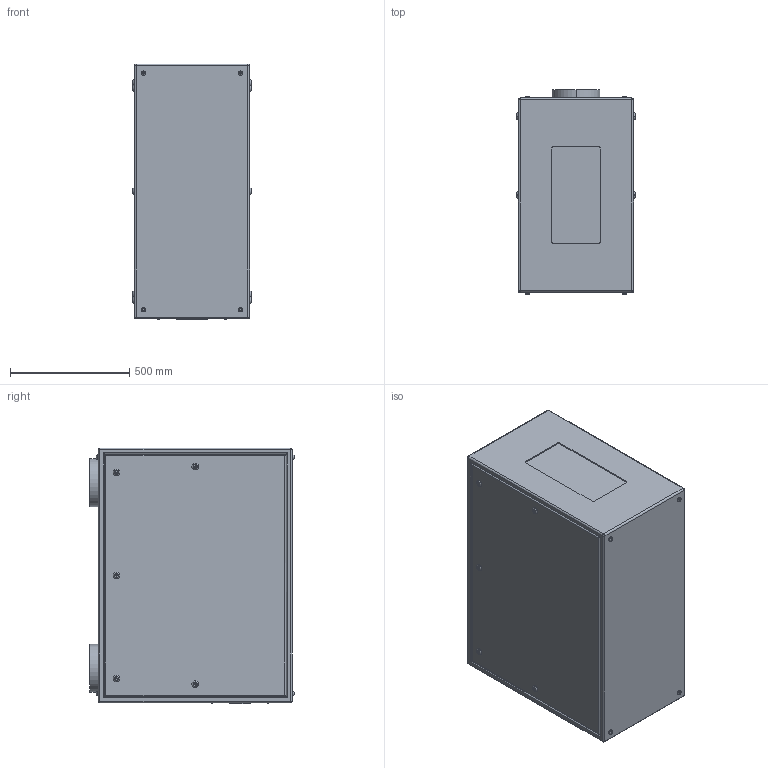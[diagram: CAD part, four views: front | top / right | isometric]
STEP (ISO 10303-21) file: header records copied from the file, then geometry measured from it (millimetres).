
FILE_DESCRIPTION (( 'STEP AP214' ), '1' );
FILE_NAME ('Tacit 56.150.P R07.STEP', '2022-09-11T22:48:03', ( '' ), ( '' ), 'SwSTEP 2.0', 'SolidWorks 2020', '' );
FILE_SCHEMA (( 'AUTOMOTIVE_DESIGN' ));
Length unit declared in the file: inch
Products named in the file (1): Tacit 56.150.P R07
Bounding box: 495.3 x 855.85 x 1071.88 mm (x, y, z)
Volume: 417561671 mm3; surface area: 3977106.3 mm2
Topology: 1 solids, 5 shells, 443 faces, 988 edges, 624 vertices
Faces by surface type: plane 235, cylinder 152, torus 48, sphere 8
Entity records: 15597 total; most frequent: DIRECTION 2220, CARTESIAN_POINT 2096, ORIENTED_EDGE 1960, EDGE_CURVE 980, AXIS2_PLACEMENT_3D 812, VERTEX_POINT 624, VECTOR 596, LINE 596
